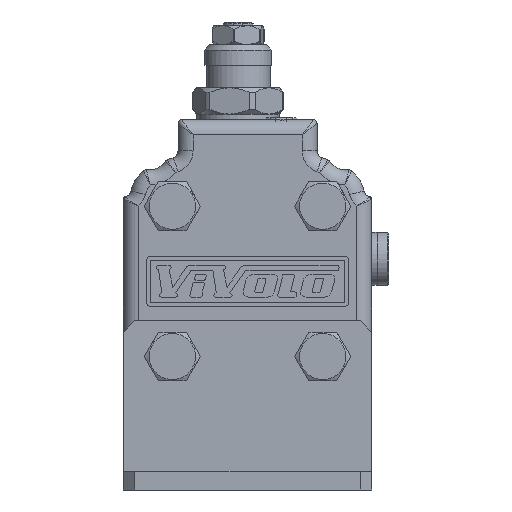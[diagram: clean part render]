
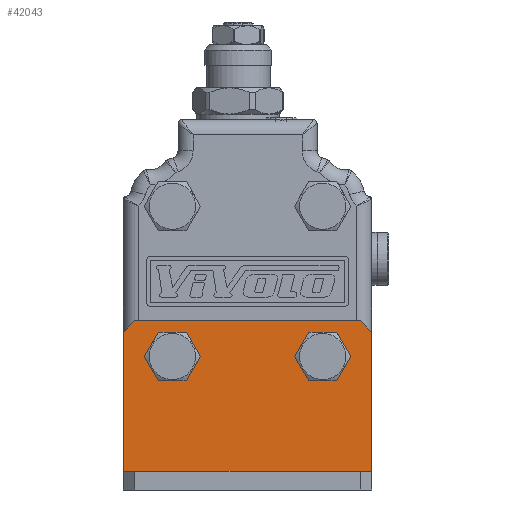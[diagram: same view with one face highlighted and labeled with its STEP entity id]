
A CAD part, front view. The second image highlights one B-rep face of the part: STEP entity #42043.
In plain terms, the highlighted planar face has unit normal (0, -1, 0).
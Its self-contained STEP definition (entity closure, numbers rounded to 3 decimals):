
#1686=CIRCLE('',#43928,6.);
#1687=CIRCLE('',#43930,6.);
#4676=ORIENTED_EDGE('',*,*,#12840,.T.);
#4677=ORIENTED_EDGE('',*,*,#12839,.T.);
#4678=ORIENTED_EDGE('',*,*,#12988,.F.);
#4679=ORIENTED_EDGE('',*,*,#12946,.T.);
#4680=ORIENTED_EDGE('',*,*,#12989,.F.);
#4681=ORIENTED_EDGE('',*,*,#12990,.F.);
#4682=ORIENTED_EDGE('',*,*,#12991,.F.);
#4683=ORIENTED_EDGE('',*,*,#12992,.F.);
#12839=EDGE_CURVE('',#17142,#17142,#1686,.T.);
#12840=EDGE_CURVE('',#17143,#17143,#1687,.T.);
#12946=EDGE_CURVE('',#17209,#17210,#20167,.T.);
#12988=EDGE_CURVE('',#17209,#17238,#20186,.T.);
#12989=EDGE_CURVE('',#17239,#17210,#20187,.T.);
#12990=EDGE_CURVE('',#17240,#17239,#20188,.T.);
#12991=EDGE_CURVE('',#17241,#17240,#20189,.T.);
#12992=EDGE_CURVE('',#17238,#17241,#20190,.T.);
#17142=VERTEX_POINT('',#59497);
#17143=VERTEX_POINT('',#59500);
#17209=VERTEX_POINT('',#60106);
#17210=VERTEX_POINT('',#60107);
#17238=VERTEX_POINT('',#60588);
#17239=VERTEX_POINT('',#60590);
#17240=VERTEX_POINT('',#60592);
#17241=VERTEX_POINT('',#60594);
#20167=LINE('',#60105,#22520);
#20186=LINE('',#60587,#22539);
#20187=LINE('',#60589,#22540);
#20188=LINE('',#60591,#22541);
#20189=LINE('',#60593,#22542);
#20190=LINE('',#60595,#22543);
#22520=VECTOR('',#48399,1000.);
#22539=VECTOR('',#48470,1000.);
#22540=VECTOR('',#48471,1000.);
#22541=VECTOR('',#48472,1000.);
#22542=VECTOR('',#48473,1000.);
#22543=VECTOR('',#48474,1000.);
#24747=EDGE_LOOP('',(#4676));
#24748=EDGE_LOOP('',(#4677));
#24749=EDGE_LOOP('',(#4678,#4679,#4680,#4681,#4682,#4683));
#26800=FACE_BOUND('',#24747,.T.);
#26801=FACE_BOUND('',#24748,.T.);
#26802=FACE_BOUND('',#24749,.T.);
#28705=PLANE('',#44020);
#42043=ADVANCED_FACE('',(#26800,#26801,#26802),#28705,.F.);
#43928=AXIS2_PLACEMENT_3D('',#59496,#48192,#48193);
#43930=AXIS2_PLACEMENT_3D('',#59499,#48196,#48197);
#44020=AXIS2_PLACEMENT_3D('',#60586,#48468,#48469);
#48192=DIRECTION('',(0.,1.,0.));
#48193=DIRECTION('',(1.,0.,0.));
#48196=DIRECTION('',(0.,1.,0.));
#48197=DIRECTION('',(1.,0.,0.));
#48399=DIRECTION('',(1.,0.,0.));
#48468=DIRECTION('',(0.,1.,0.));
#48469=DIRECTION('',(0.,0.,1.));
#48470=DIRECTION('',(0.,0.,1.));
#48471=DIRECTION('',(0.,0.,-1.));
#48472=DIRECTION('',(0.707,0.,-0.707));
#48473=DIRECTION('',(1.,0.,0.));
#48474=DIRECTION('',(0.707,0.,0.707));
#59496=CARTESIAN_POINT('',(20.,-5.,-20.));
#59497=CARTESIAN_POINT('',(26.,-5.,-20.));
#59499=CARTESIAN_POINT('',(-20.,-5.,-20.));
#59500=CARTESIAN_POINT('',(-14.,-5.,-20.));
#60105=CARTESIAN_POINT('',(33.,-5.,-50.5));
#60106=CARTESIAN_POINT('',(-33.,-5.,-50.5));
#60107=CARTESIAN_POINT('',(33.,-5.,-50.5));
#60586=CARTESIAN_POINT('',(33.,-5.,-55.5));
#60587=CARTESIAN_POINT('',(-33.,-5.,-55.5));
#60588=CARTESIAN_POINT('',(-33.,-5.,-13.5));
#60589=CARTESIAN_POINT('',(33.,-5.,-13.5));
#60590=CARTESIAN_POINT('',(33.,-5.,-13.5));
#60591=CARTESIAN_POINT('',(30.,-5.,-10.5));
#60592=CARTESIAN_POINT('',(30.,-5.,-10.5));
#60593=CARTESIAN_POINT('',(30.,-5.,-10.5));
#60594=CARTESIAN_POINT('',(-30.,-5.,-10.5));
#60595=CARTESIAN_POINT('',(-33.,-5.,-13.5));
